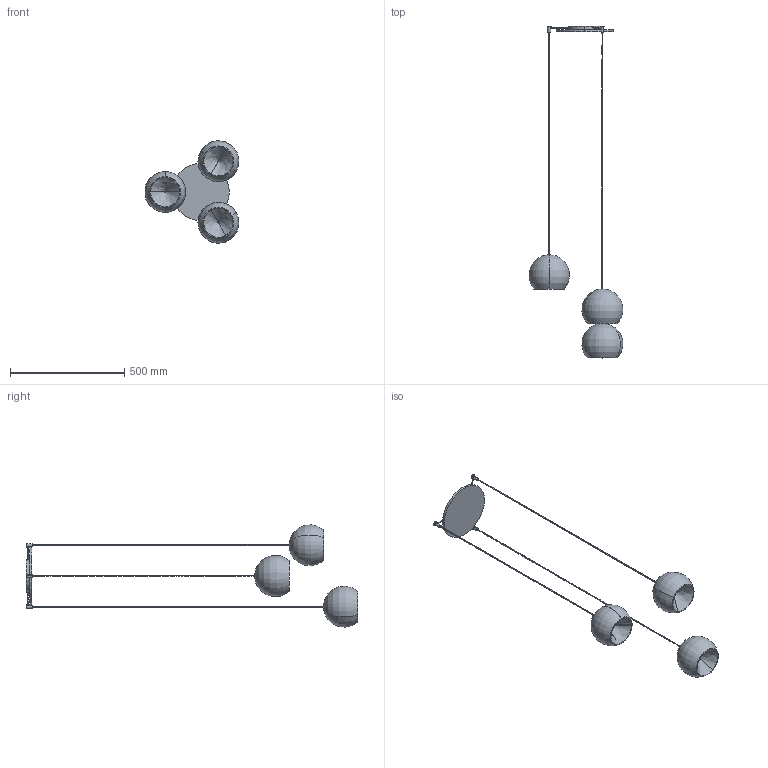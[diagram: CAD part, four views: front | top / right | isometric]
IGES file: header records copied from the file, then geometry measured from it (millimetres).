
Start section: SolidWorks IGES file using analytic representation for surfaces
Global section: file name: Y:\eforma\TECNICO\SOLIDWORKS\E-FORMA\09-LAMPADE\CHERRY\02 parts\CHR03-00-CHERRY_3 sospensione.IGS; native system: SolidWorks 2022; preprocessor: SolidWorks 2022; author: eforma.tech; date: 250506.081509; units: millimetre
Bounding box: 410.58 x 1450 x 446.93 mm (x, y, z)
Volume: 1310285.1 mm3; surface area: 791979.2 mm2
Topology: 16 solids, 16 shells, 118 faces, 248 edges, 157 vertices
Faces by surface type: revolution 81, plane 37
